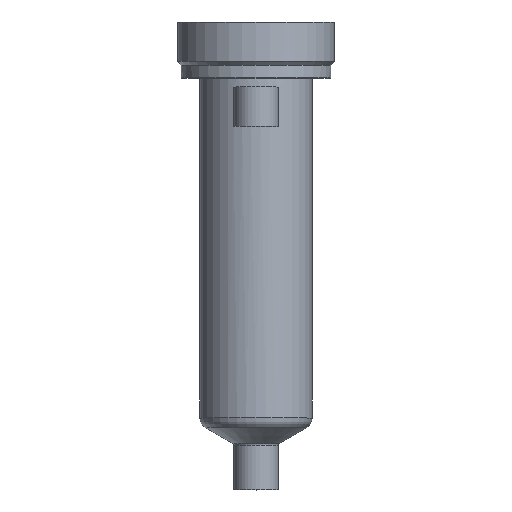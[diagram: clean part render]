
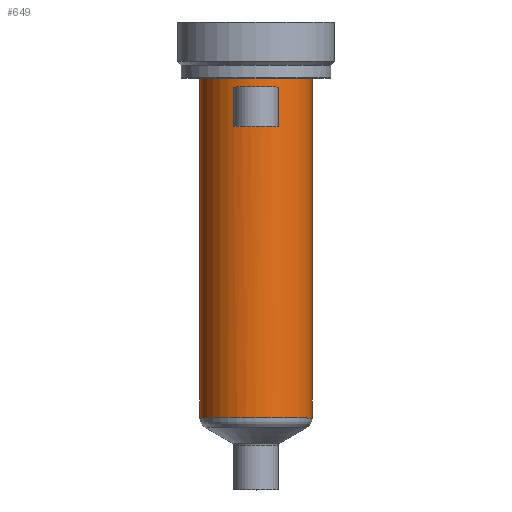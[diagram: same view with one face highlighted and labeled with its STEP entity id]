
A CAD part, top view. The second image highlights one B-rep face of the part: STEP entity #649.
In plain terms, the highlighted cylindrical face has radius 15 mm (diameter 30 mm), a partial arc.
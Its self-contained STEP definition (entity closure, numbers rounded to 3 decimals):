
#161=DIRECTION('',(0.,-1.,0.));
#162=VECTOR('',#161,90.783);
#163=CARTESIAN_POINT('',(15.,0.,0.));
#164=LINE('',#163,#162);
#165=CARTESIAN_POINT('',(0.,-90.783,0.));
#166=DIRECTION('',(0.,1.,0.));
#167=DIRECTION('',(-1.,0.,0.));
#168=AXIS2_PLACEMENT_3D('',#165,#166,#167);
#170=DIRECTION('',(0.,1.,0.));
#171=VECTOR('',#170,90.783);
#172=CARTESIAN_POINT('',(-15.,-90.783,0.));
#173=LINE('',#172,#171);
#174=CARTESIAN_POINT('',(0.,0.,0.));
#175=DIRECTION('',(0.,1.,0.));
#176=DIRECTION('',(-1.,0.,0.));
#177=AXIS2_PLACEMENT_3D('',#174,#175,#176);
#255=DIRECTION('',(0.,-1.,0.));
#256=VECTOR('',#255,10.5);
#257=CARTESIAN_POINT('',(-6.,-2.5,13.748));
#258=LINE('',#257,#256);
#263=CARTESIAN_POINT('',(0.,-13.,0.));
#264=DIRECTION('',(0.,1.,0.));
#265=DIRECTION('',(-0.4,0.,0.917));
#266=AXIS2_PLACEMENT_3D('',#263,#264,#265);
#298=CARTESIAN_POINT('',(0.,-2.5,0.));
#299=DIRECTION('',(0.,-1.,0.));
#300=DIRECTION('',(0.4,0.,0.917));
#301=AXIS2_PLACEMENT_3D('',#298,#299,#300);
#303=DIRECTION('',(0.,-1.,0.));
#304=VECTOR('',#303,10.5);
#305=CARTESIAN_POINT('',(6.,-2.5,13.748));
#306=LINE('',#305,#304);
#390=CARTESIAN_POINT('',(-15.,0.,0.));
#391=CARTESIAN_POINT('',(15.,0.,0.));
#392=VERTEX_POINT('',#390);
#393=VERTEX_POINT('',#391);
#402=CARTESIAN_POINT('',(6.,-2.5,13.748));
#403=VERTEX_POINT('',#402);
#404=CARTESIAN_POINT('',(-6.,-2.5,13.748));
#405=VERTEX_POINT('',#404);
#414=CARTESIAN_POINT('',(15.,-90.783,0.));
#415=VERTEX_POINT('',#414);
#424=CARTESIAN_POINT('',(-15.,-90.783,0.));
#425=VERTEX_POINT('',#424);
#426=CARTESIAN_POINT('',(-6.,-13.,13.748));
#427=CARTESIAN_POINT('',(6.,-13.,13.748));
#428=VERTEX_POINT('',#426);
#429=VERTEX_POINT('',#427);
#627=CARTESIAN_POINT('',(0.,16.4,0.));
#628=DIRECTION('',(0.,-1.,0.));
#629=DIRECTION('',(-1.,0.,0.));
#630=AXIS2_PLACEMENT_3D('',#627,#628,#629);
#631=CYLINDRICAL_SURFACE('',#630,15.);
#632=ORIENTED_EDGE('',*,*,#621,.T.);
#634=ORIENTED_EDGE('',*,*,#633,.F.);
#635=ORIENTED_EDGE('',*,*,#617,.T.);
#636=ORIENTED_EDGE('',*,*,#607,.T.);
#637=EDGE_LOOP('',(#632,#634,#635,#636));
#638=FACE_OUTER_BOUND('',#637,.F.);
#640=ORIENTED_EDGE('',*,*,#639,.T.);
#642=ORIENTED_EDGE('',*,*,#641,.T.);
#644=ORIENTED_EDGE('',*,*,#643,.F.);
#646=ORIENTED_EDGE('',*,*,#645,.T.);
#647=EDGE_LOOP('',(#640,#642,#644,#646));
#648=FACE_BOUND('',#647,.F.);
#649=ADVANCED_FACE('',(#638,#648),#631,.T.);
#169=CIRCLE('',#168,15.);
#178=CIRCLE('',#177,15.);
#267=CIRCLE('',#266,15.);
#302=CIRCLE('',#301,15.);
#607=EDGE_CURVE('',#392,#393,#178,.T.);
#617=EDGE_CURVE('',#425,#392,#173,.T.);
#621=EDGE_CURVE('',#393,#415,#164,.T.);
#633=EDGE_CURVE('',#425,#415,#169,.T.);
#639=EDGE_CURVE('',#405,#428,#258,.T.);
#641=EDGE_CURVE('',#428,#429,#267,.T.);
#643=EDGE_CURVE('',#403,#429,#306,.T.);
#645=EDGE_CURVE('',#403,#405,#302,.T.);
